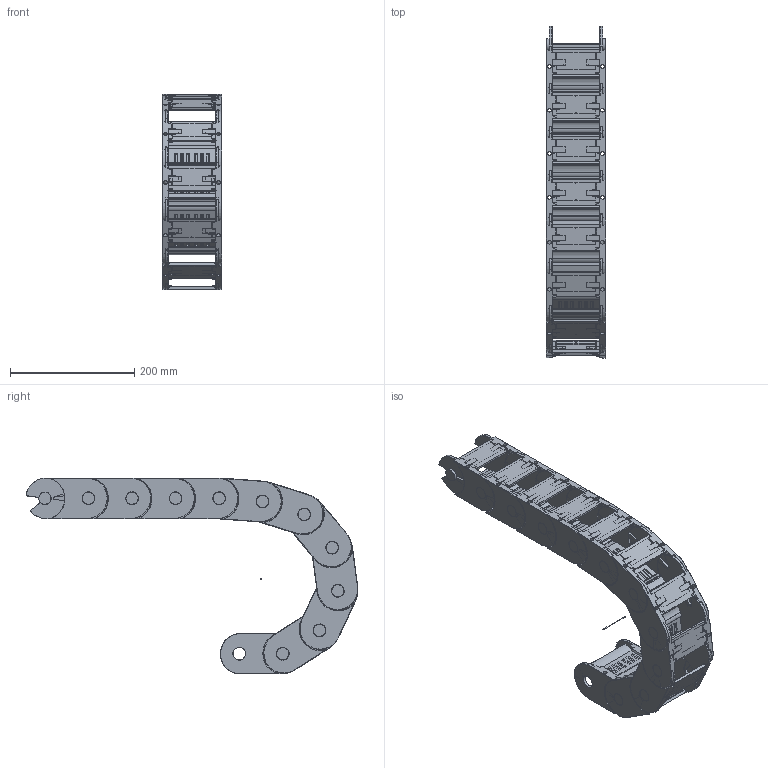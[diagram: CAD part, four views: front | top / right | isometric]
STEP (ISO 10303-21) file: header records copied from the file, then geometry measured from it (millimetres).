
FILE_DESCRIPTION((''),'2;1');
FILE_NAME('C:\Uebbing\PARAMETERKETTEN\KOLIBRI\Kol_65_095_1\KOLIBRI 65_095_1_R125.stp','2012-03-06T08:24:06',('Uebbing'),(''),'Autodesk Inventor 10','Autodesk Inventor 10','');
FILE_SCHEMA(('AUTOMOTIVE_DESIGN { 1 0 10303 214 1 1 1 1 }'));
Length unit declared in the file: millimetre
Products named in the file (5): KOLIBRI 65_095_1_PARAMETRISCH; Achse; Kol_65_095_1; Kol_65_095_1 Klappsteg; Kol_65_095_5 Lasche
Assembly tree (14 placements, depth 3):
  KOLIBRI 65_095_1_PARAMETRISCH
    Achse
    Kol_65_095_1  x11
      Kol_65_095_1 Klappsteg
      Kol_65_095_5 Lasche
Bounding box: 95 x 533.4 x 315 mm (x, y, z)
Volume: 1037752.8 mm3; surface area: 651960.3 mm2
Topology: 23 solids, 23 shells, 5679 faces, 15536 edges, 9958 vertices
Faces by surface type: plane 2444, bspline 2035, cylinder 1002, torus 132, cone 44, sphere 22
Full cylindrical faces by diameter (mm): 1 x1, 2.514 x11, 4 x33, 4.414 x11, 6 x22, 20 x22
Entity records: 17460 total; most frequent: CARTESIAN_POINT 4693, ORIENTED_EDGE 2758, DIRECTION 2381, EDGE_CURVE 1379, VECTOR 1007, LINE 1007, VERTEX_POINT 896, AXIS2_PLACEMENT_3D 687
